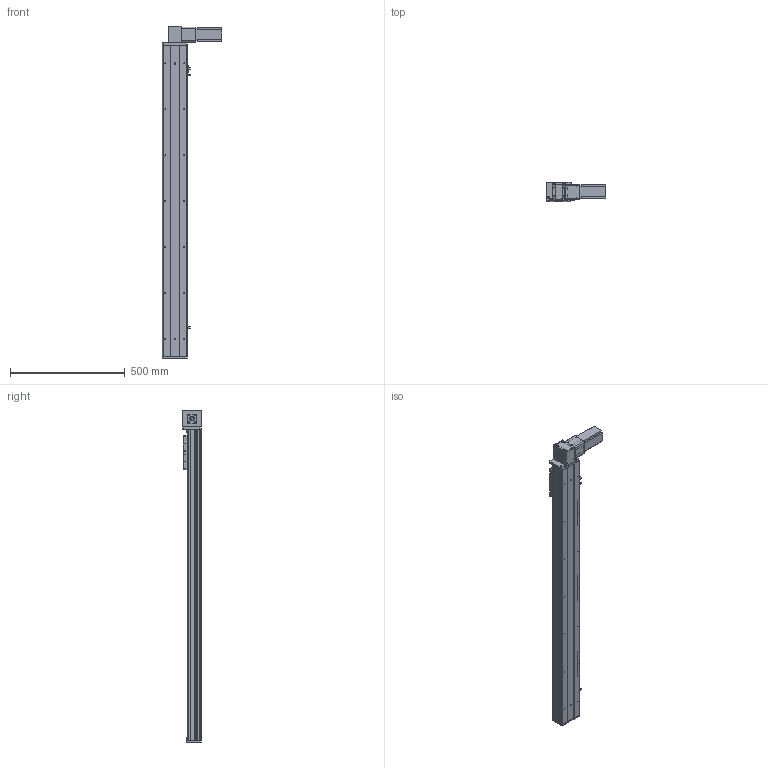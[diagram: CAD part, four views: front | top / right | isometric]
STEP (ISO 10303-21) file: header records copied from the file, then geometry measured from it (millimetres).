
FILE_DESCRIPTION (( 'STEP AP203' ), '1' );
FILE_NAME ('Y10CB-D90-S1100-BD-P400W.STEP', '2020-02-17T02:35:44', ( '微软用户' ), ( '微软中国' ), 'SwSTEP 2.0', 'SolidWorks 2017', '' );
FILE_SCHEMA (( 'CONFIG_CONTROL_DESIGN' ));
Length unit declared in the file: millimetre
Products named in the file (16): 10CB-耜裔; Y10B-々湍喘謫眊楊擘啣--; Y135C-陔俋离換覜結え-; san松下电机400不带刹车----; Y100-135俋离換覜ん--; 0B-源倛裔啣; Y10B--々湍喘謫眊--666; 0B-埴倛裔啣; 0B-薊粣ん眊; 10CB-詩湍-; Y10CB-D90-S1100-BD-P400W; Y10CB- 掛极耜裔啣-毀---; Y10C---詩湍揤啣; 0CB-雄赽釱---; 10CB9-掛极; 0Cb-俋欶---
Assembly tree (19 placements, depth 2):
  Y10CB-D90-S1100-BD-P400W
    0CB-雄赽釱---
    0Cb-俋欶---
    Y10B-々湍喘謫眊楊擘啣--
    san松下电机400不带刹车----
    0B-源倛裔啣
    0B-埴倛裔啣
    10CB-詩湍-
    Y10CB- 掛极耜裔啣-毀---  x2
    Y10C---詩湍揤啣  x2
    10CB9-掛极
    10CB-耜裔
    Y135C-陔俋离換覜結え-
    Y100-135俋离換覜ん--  x3
    Y10B--々湍喘謫眊--666
    0B-薊粣ん眊
Bounding box: 258 x 80.5 x 1446 mm (x, y, z)
Volume: 3310904 mm3; surface area: 1455759.7 mm2
Topology: 19 solids, 19 shells, 900 faces, 2382 edges, 1556 vertices
Faces by surface type: cylinder 440, plane 436, cone 24
Entity records: 27569 total; most frequent: CARTESIAN_POINT 4904, DIRECTION 4457, ORIENTED_EDGE 4234, EDGE_CURVE 2117, AXIS2_PLACEMENT_3D 1599, VERTEX_POINT 1382, LINE 1259, VECTOR 1259
